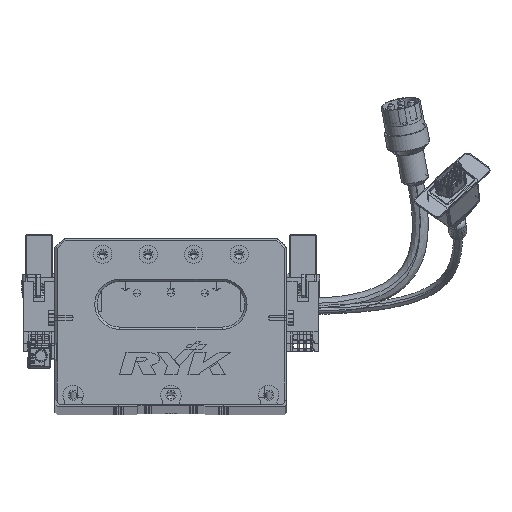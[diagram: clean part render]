
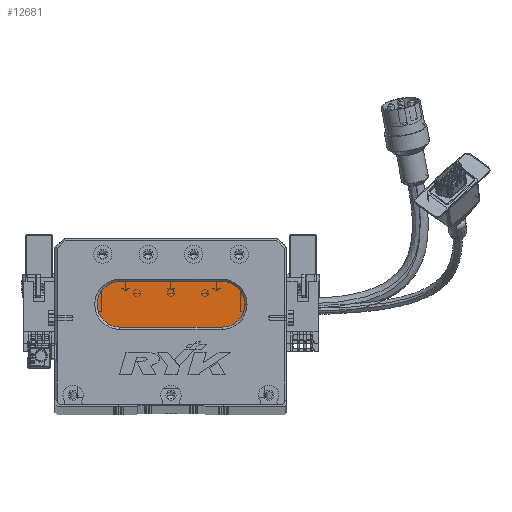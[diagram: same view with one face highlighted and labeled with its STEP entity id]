
A CAD part, top view. The second image highlights one B-rep face of the part: STEP entity #12681.
In plain terms, the highlighted planar face has unit normal (0, 0, 1) as drawn and (0, 0, -1) by its records, which use the part's own axes.
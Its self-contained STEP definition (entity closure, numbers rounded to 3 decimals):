
#1186 = VERTEX_POINT ( 'NONE', #7092 ) ;
#3053 = EDGE_CURVE ( 'NONE', #37460, #50269, #34859, .T. ) ;
#4209 = EDGE_CURVE ( 'NONE', #68145, #37460, #63195, .T. ) ;
#4405 = CARTESIAN_POINT ( 'NONE',  ( 73.5, 34., 13. ) ) ;
#4775 = CARTESIAN_POINT ( 'NONE',  ( 73.5, 44., 13. ) ) ;
#7092 = CARTESIAN_POINT ( 'NONE',  ( 28.5, 54., 13. ) ) ;
#12305 = CARTESIAN_POINT ( 'NONE',  ( 18.5, 44., 13. ) ) ;
#12681 = ADVANCED_FACE ( 'NONE', ( #14789 ), #57173, .T. ) ;
#14775 = DIRECTION ( 'NONE',  ( 1., 0., 0. ) ) ;
#14789 = FACE_OUTER_BOUND ( 'NONE', #75197, .T. ) ;
#16188 = DIRECTION ( 'NONE',  ( 0., 0., -1. ) ) ;
#20121 = CARTESIAN_POINT ( 'NONE',  ( 73.5, 54., 13. ) ) ;
#21501 = CARTESIAN_POINT ( 'NONE',  ( 28.5, 44., 13. ) ) ;
#21687 = DIRECTION ( 'NONE',  ( -1., 0., 0. ) ) ;
#22336 = AXIS2_PLACEMENT_3D ( 'NONE', #21501, #57833, #63971 ) ;
#24822 = ORIENTED_EDGE ( 'NONE', *, *, #30189, .T. ) ;
#26695 = DIRECTION ( 'NONE',  ( -1., 0., 0. ) ) ;
#28040 = AXIS2_PLACEMENT_3D ( 'NONE', #4775, #16188, #34538 ) ;
#29094 = AXIS2_PLACEMENT_3D ( 'NONE', #44411, #68817, #68552 ) ;
#30189 = EDGE_CURVE ( 'NONE', #50269, #48012, #66589, .T. ) ;
#32275 = CARTESIAN_POINT ( 'NONE',  ( 73.5, 44., 13. ) ) ;
#32733 = VECTOR ( 'NONE', #14775, 1000. ) ;
#34538 = DIRECTION ( 'NONE',  ( -1., 0., 0. ) ) ;
#34859 = LINE ( 'NONE', #4405, #58593 ) ;
#37460 = VERTEX_POINT ( 'NONE', #48548 ) ;
#40521 = EDGE_CURVE ( 'NONE', #1186, #68145, #76474, .T. ) ;
#44411 = CARTESIAN_POINT ( 'NONE',  ( 28.5, 44., 13. ) ) ;
#45836 = AXIS2_PLACEMENT_3D ( 'NONE', #32275, #63042, #26695 ) ;
#46412 = ORIENTED_EDGE ( 'NONE', *, *, #53986, .T. ) ;
#47944 = CARTESIAN_POINT ( 'NONE',  ( 28.5, 34., 13. ) ) ;
#48012 = VERTEX_POINT ( 'NONE', #12305 ) ;
#48548 = CARTESIAN_POINT ( 'NONE',  ( 73.5, 34., 13. ) ) ;
#50269 = VERTEX_POINT ( 'NONE', #47944 ) ;
#50448 = CARTESIAN_POINT ( 'NONE',  ( 73.5, 54., 13. ) ) ;
#53986 = EDGE_CURVE ( 'NONE', #48012, #1186, #60878, .T. ) ;
#57173 = PLANE ( 'NONE',  #45836 ) ;
#57833 = DIRECTION ( 'NONE',  ( 0., 0., -1. ) ) ;
#58593 = VECTOR ( 'NONE', #21687, 1000. ) ;
#60878 = CIRCLE ( 'NONE', #29094, 10. ) ;
#63042 = DIRECTION ( 'NONE',  ( 0., 0., -1. ) ) ;
#63195 = CIRCLE ( 'NONE', #28040, 10. ) ;
#63630 = ORIENTED_EDGE ( 'NONE', *, *, #3053, .T. ) ;
#63971 = DIRECTION ( 'NONE',  ( -1., 0., 0. ) ) ;
#66589 = CIRCLE ( 'NONE', #22336, 10. ) ;
#67573 = ORIENTED_EDGE ( 'NONE', *, *, #40521, .T. ) ;
#68145 = VERTEX_POINT ( 'NONE', #50448 ) ;
#68552 = DIRECTION ( 'NONE',  ( -1., 0., 0. ) ) ;
#68817 = DIRECTION ( 'NONE',  ( 0., 0., -1. ) ) ;
#75197 = EDGE_LOOP ( 'NONE', ( #75819, #63630, #24822, #46412, #67573 ) ) ;
#75819 = ORIENTED_EDGE ( 'NONE', *, *, #4209, .T. ) ;
#76474 = LINE ( 'NONE', #20121, #32733 ) ;
